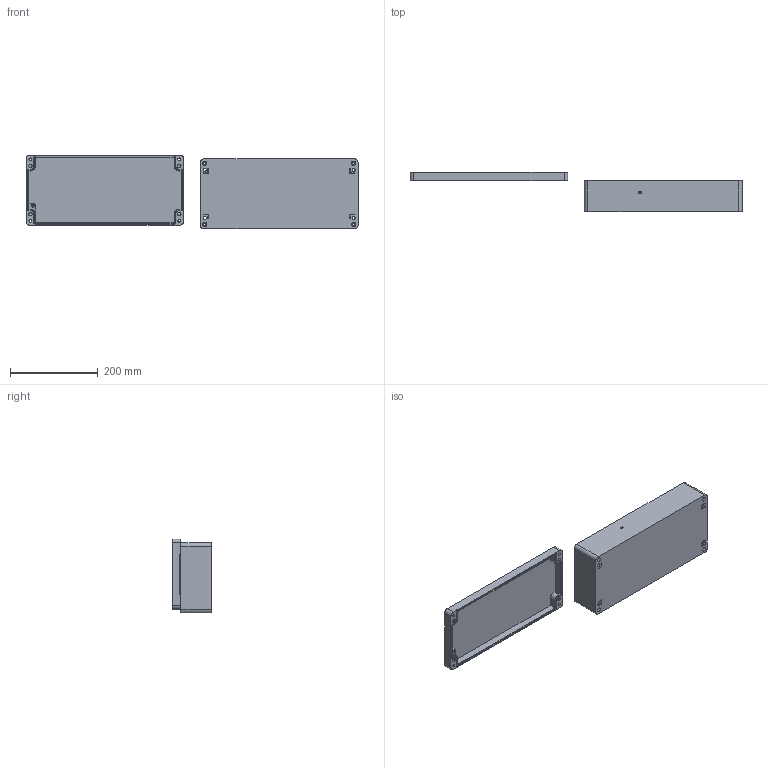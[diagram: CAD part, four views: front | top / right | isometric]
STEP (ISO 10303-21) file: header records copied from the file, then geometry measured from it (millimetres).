
FILE_DESCRIPTION (( 'STEP AP203' ), '1' );
FILE_NAME ('ZX-AL-163609_装配体.STEP', '2022-01-24T09:06:01', ( '微软用户' ), ( '微软中国' ), 'SwSTEP 2.0', 'SolidWorks 2020', '' );
FILE_SCHEMA (( 'CONFIG_CONTROL_DESIGN' ));
Length unit declared in the file: millimetre
Products named in the file (3): ZX-AL-163609_蚾饜极; ZX-AL-163609_奻; ZX-AL-163609_狟
Assembly tree (2 placements, depth 2):
  ZX-AL-163609_蚾饜极
    ZX-AL-163609_狟
    ZX-AL-163609_奻
Bounding box: 758.17 x 91.03 x 168.8 mm (x, y, z)
Volume: 851712.2 mm3; surface area: 432579.8 mm2
Topology: 2 solids, 2 shells, 665 faces, 1794 edges, 1169 vertices
Faces by surface type: plane 342, cylinder 164, bspline 123, cone 36
Entity records: 26603 total; most frequent: CARTESIAN_POINT 10270, ORIENTED_EDGE 3560, DIRECTION 2906, EDGE_CURVE 1780, LINE 1208, VECTOR 1208, VERTEX_POINT 1169, AXIS2_PLACEMENT_3D 849
